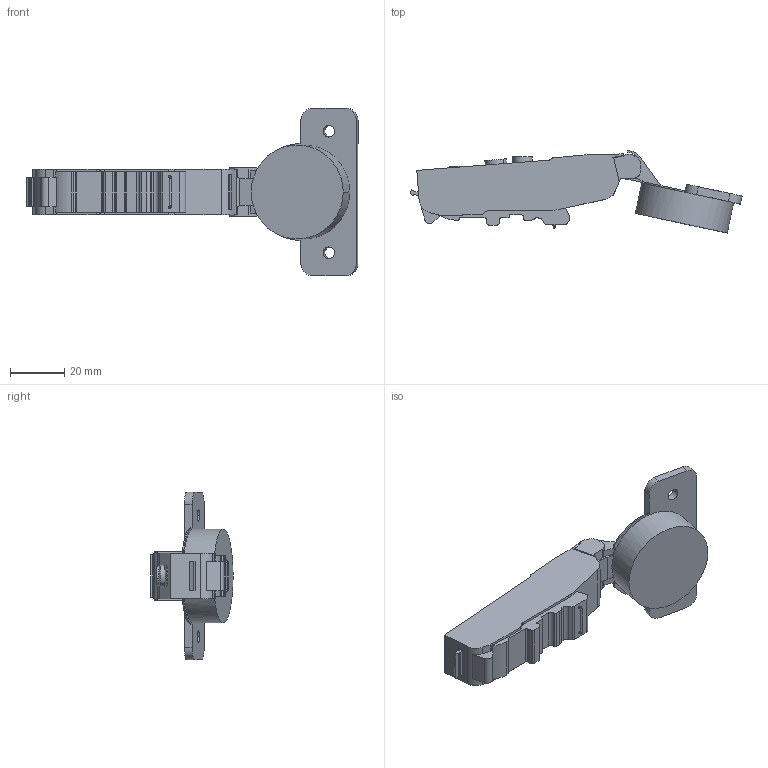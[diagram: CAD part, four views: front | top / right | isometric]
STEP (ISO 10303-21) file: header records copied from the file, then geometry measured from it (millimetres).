
FILE_DESCRIPTION (( 'STEP AP203' ), '1' );
FILE_NAME ('C81B875FAB-DTC3Dopen.STEP', '2023-06-09T05:22:06', ( 'Windows 蚚誧' ), ( '' ), 'SwSTEP 2.0', 'SolidWorks 2018', '' );
FILE_SCHEMA (( 'CONFIG_CONTROL_DESIGN' ));
Length unit declared in the file: millimetre
Products named in the file (1): C81B875FAB-DTC3Dopen
Bounding box: 122.92 x 30.41 x 62 mm (x, y, z)
Volume: 41391.1 mm3; surface area: 12519.1 mm2
Topology: 1 solids, 1 shells, 251 faces, 736 edges, 486 vertices
Faces by surface type: plane 110, cylinder 98, bspline 39, torus 4
Entity records: 15323 total; most frequent: CARTESIAN_POINT 8851, ORIENTED_EDGE 1472, DIRECTION 1216, EDGE_CURVE 736, VERTEX_POINT 486, AXIS2_PLACEMENT_3D 417, VECTOR 382, LINE 382
